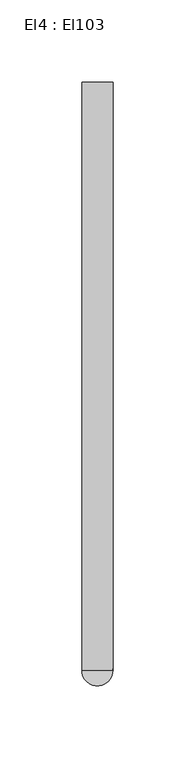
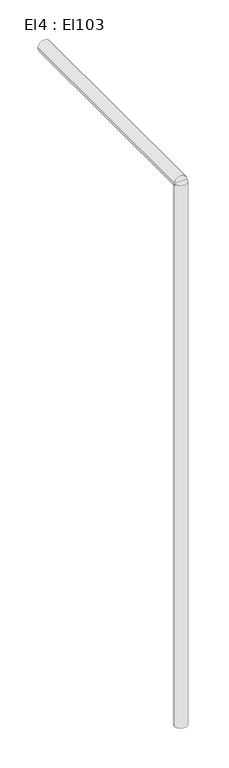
"""IFC4 building model written with IfcOpenShell, lengths in millimetres: cable carrier segment geometry, El4 : El103."""

from ifc_helpers import new_model, si_unit, point, frame, frame_2d, origin, place, context, project, spatial, circle_curve, trimmed, segment, composite_curve, outline, extrude, source, transform, mapped, element, save


def el4_el103_70ae6426(model_context):
    return source(origin(), model_context, "Body", "SweptSolid", [
        extrude(outline(composite_curve([segment(trimmed(circle_curve(frame_2d((25144.4746511, 9913.8611745)), 9.5), [point((25134.9746511, 9913.8611745))], [point((25153.9746511, 9913.8611745))], False, "CARTESIAN"), True, "CONTINUOUS"), segment(trimmed(circle_curve(frame_2d((25144.4746511, 9913.8611745)), 9.5), [point((25153.9746511, 9913.8611745))], [point((25134.9746511, 9913.8611745))], False, "CARTESIAN"), True, "CONTINUOUS")], self_intersect=False)), frame((0.0, 0.0, 1830.0), z_axis=(0.0, 0.0, 1.0), x_axis=(1.0, 0.0, 0.0)), (0.0, 0.0, 1.0), 870.0),
        extrude(outline(composite_curve([segment(trimmed(circle_curve(frame_2d((2700.0, 25144.4746511)), 9.5), [point((2700.0, 25134.9746511))], [point((2700.0, 25153.9746511))], False, "CARTESIAN"), True, "CONTINUOUS"), segment(trimmed(circle_curve(frame_2d((2700.0, 25144.4746511)), 9.5), [point((2700.0, 25153.9746511))], [point((2700.0, 25134.9746511))], False, "CARTESIAN"), True, "CONTINUOUS")], self_intersect=False)), frame((0.0, 9913.8601745, 0.0), z_axis=(0.0, 1.0, 0.0), x_axis=(0.0, 0.0, 1.0)), (0.0, 0.0, 1.0), 358.603),
    ])


if __name__ == "__main__":
    model = new_model("IFC4")
    model_context = context("Model", 3, world=origin())
    ifc_project = project(units=[si_unit("LENGTHUNIT", "METRE", prefix="MILLI")], contexts=[model_context])
    site = spatial("IfcSite", under=ifc_project)
    building = spatial("IfcBuilding", under=site)
    placement = place(None, origin())
    el4_el103_shape = el4_el103_70ae6426(model_context)
    element("IfcCableCarrierSegment", 1, ObjectType="El4 : El103", at=placement, inside=building, context=model_context, shape_type="MappedRepresentation", body=[
        mapped(el4_el103_shape, transform((0.0, 0.0, 0.0), x_axis=(1.0, 0.0, 0.0), y_axis=(0.0, 1.0, 0.0), z_axis=(0.0, 0.0, 1.0))),
    ])
    save(model, "model.ifc")
